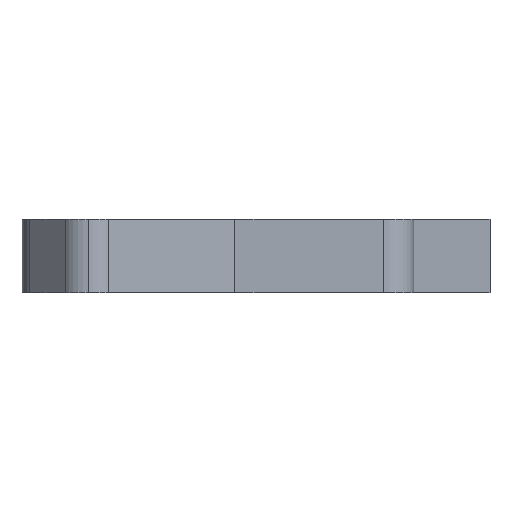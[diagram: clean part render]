
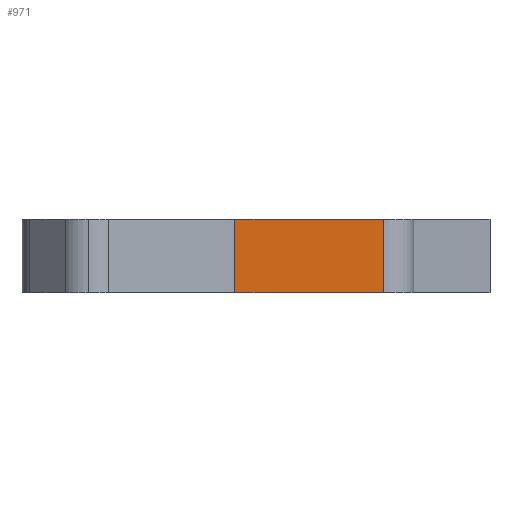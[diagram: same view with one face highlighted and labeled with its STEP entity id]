
A CAD part, left-side view. The second image highlights one B-rep face of the part: STEP entity #971.
In plain terms, the highlighted planar face has unit normal (-1, 0, 0).
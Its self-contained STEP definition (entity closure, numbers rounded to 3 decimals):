
#69 = CARTESIAN_POINT ( 'NONE',  ( -5.9, 24.424, 0. ) ) ;
#77 = CARTESIAN_POINT ( 'NONE',  ( -5.9, 24.424, 24. ) ) ;
#79 = CARTESIAN_POINT ( 'NONE',  ( -5.9, 24.424, 24. ) ) ;
#86 = AXIS2_PLACEMENT_3D ( 'NONE', #970, #190, #427 ) ;
#126 = LINE ( 'NONE', #1046, #1287 ) ;
#173 = ORIENTED_EDGE ( 'NONE', *, *, #482, .F. ) ;
#190 = DIRECTION ( 'NONE',  ( 1., 0., 0. ) ) ;
#427 = DIRECTION ( 'NONE',  ( 0., 0., -1. ) ) ;
#482 = EDGE_CURVE ( 'NONE', #1068, #1517, #1116, .T. ) ;
#493 = VERTEX_POINT ( 'NONE', #1221 ) ;
#499 = VERTEX_POINT ( 'NONE', #69 ) ;
#500 = VECTOR ( 'NONE', #523, 1000. ) ;
#523 = DIRECTION ( 'NONE',  ( 0., -1., 0. ) ) ;
#539 = EDGE_CURVE ( 'NONE', #493, #1517, #948, .T. ) ;
#541 = EDGE_CURVE ( 'NONE', #499, #493, #126, .T. ) ;
#603 = VECTOR ( 'NONE', #1429, 1000. ) ;
#612 = ORIENTED_EDGE ( 'NONE', *, *, #539, .T. ) ;
#675 = ORIENTED_EDGE ( 'NONE', *, *, #541, .T. ) ;
#718 = CARTESIAN_POINT ( 'NONE',  ( -5.9, -23.9, 24. ) ) ;
#739 = EDGE_LOOP ( 'NONE', ( #675, #612, #173, #1043 ) ) ;
#819 = CARTESIAN_POINT ( 'NONE',  ( -5.9, 24.424, 24. ) ) ;
#828 = EDGE_CURVE ( 'NONE', #1068, #499, #1064, .T. ) ;
#867 = FACE_OUTER_BOUND ( 'NONE', #739, .T. ) ;
#948 = LINE ( 'NONE', #718, #603 ) ;
#970 = CARTESIAN_POINT ( 'NONE',  ( -5.9, 24.424, 24. ) ) ;
#971 = ADVANCED_FACE ( 'NONE', ( #867 ), #1247, .F. ) ;
#1043 = ORIENTED_EDGE ( 'NONE', *, *, #828, .T. ) ;
#1046 = CARTESIAN_POINT ( 'NONE',  ( -5.9, 24.424, 0. ) ) ;
#1064 = LINE ( 'NONE', #819, #1377 ) ;
#1068 = VERTEX_POINT ( 'NONE', #77 ) ;
#1116 = LINE ( 'NONE', #79, #500 ) ;
#1221 = CARTESIAN_POINT ( 'NONE',  ( -5.9, -23.9, 0. ) ) ;
#1247 = PLANE ( 'NONE',  #86 ) ;
#1287 = VECTOR ( 'NONE', #1288, 1000. ) ;
#1288 = DIRECTION ( 'NONE',  ( 0., -1., 0. ) ) ;
#1300 = DIRECTION ( 'NONE',  ( 0., 0., -1. ) ) ;
#1377 = VECTOR ( 'NONE', #1300, 1000. ) ;
#1383 = CARTESIAN_POINT ( 'NONE',  ( -5.9, -23.9, 24. ) ) ;
#1429 = DIRECTION ( 'NONE',  ( 0., 0., 1. ) ) ;
#1517 = VERTEX_POINT ( 'NONE', #1383 ) ;
